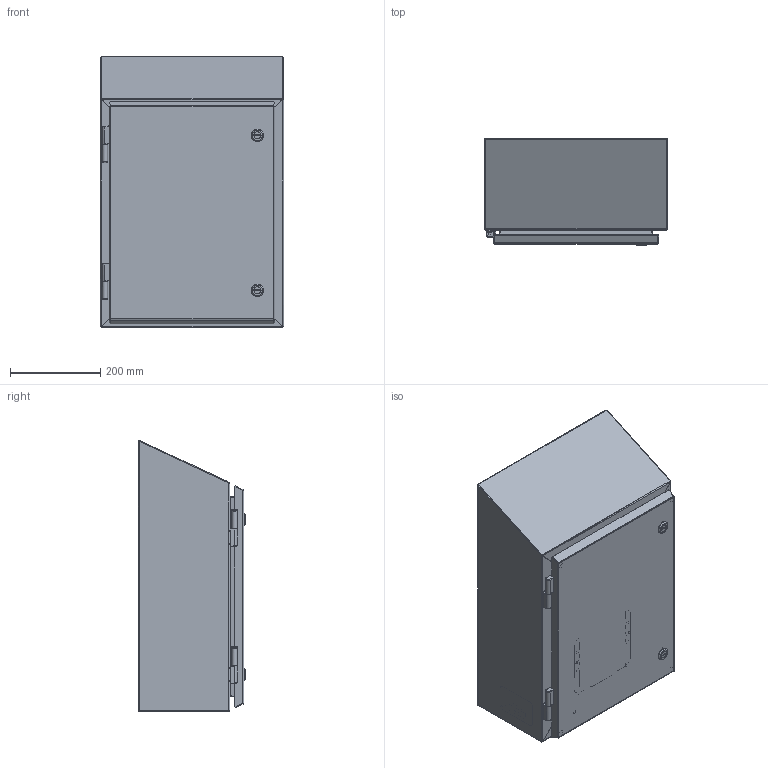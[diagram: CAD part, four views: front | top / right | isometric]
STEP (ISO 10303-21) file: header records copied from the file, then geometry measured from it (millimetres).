
FILE_DESCRIPTION(/* description */ ('Unknown'),/* implementation_level */ '2;1');
FILE_NAME(/* name */ 'HWST20168SS',/* time_stamp */ '2020-10-07T11:25:42-04:00',/* author */ ('Unknown'),/* organization */ ('Unknown'),/* preprocessor_version */ 'ST-DEVELOPER v16.7',/* originating_system */ 'Solid Edge',/* authorisation */ 'Unknown');
FILE_SCHEMA (('AUTOMOTIVE_DESIGN {1 0 10303 214 3 1 1}'));
Products named in the file (32): HWST20168SS; COM70699-3; COM70702-2; STD26089; STD26258; LAB86820; HNG86659; HNG86659-1; HNG86659-2; WAM30017; COM70219_oa_0; SCS86661; BUL10020; COM70705-3; STD26063; LOK10031; LOK10031_NUT; LOK10031_INSERT; LOK10031_SC; LOK10031_CAM; NTS18118; QLB30022; PKT66; KIT95057; NTS16695; SCC19009; WAF25037; WAM30022; NTS16536; NTS16694
Assembly tree (50 placements, depth 3):
  HWST20168SS
    COM70699-3
    COM70702-2
    STD26089  x4
    STD26258
    LAB86820
    HNG86659  x2
      HNG86659-1
      HNG86659-2
    WAM30017  x4
    COM70219_oa_0
    SCS86661  x8
    BUL10020
    COM70705-3
      COM70705-3
      STD26258
      STD26063  x2
    LOK10031  x2
      LOK10031_NUT
      LOK10031_INSERT
      LOK10031_SC
      LOK10031_CAM
      LOK10031
    NTS18118  x2
    QLB30022
    PKT66
    KIT95057
      NTS16695
      SCC19009
      WAF25037
      WAM30022
      NTS16536
      NTS16694
Bounding box: 406.4 x 238 x 601.57 mm (x, y, z)
Volume: 1990134.2 mm3; surface area: 2120576.9 mm2
Topology: 51 solids, 52 shells, 2007 faces, 4756 edges, 3030 vertices
Faces by surface type: plane 1329, cylinder 316, bspline 271, torus 46, cone 43, sphere 2
Full cylindrical faces by diameter (mm): 3.307 x2, 4.166 x2, 4.917 x16, 4.976 x1, 5 x2, 5.105 x1, 5.74 x8, 6 x6, 6.096 x8, 6.1 x4, 6.35 x4, 6.985 x4, 7.805 x1, 7.938 x2, 8.433 x4, 9.144 x2, 9.347 x2, 9.525 x4, 9.83 x4, 10.363 x1, 12.7 x8, 13.335 x2, 15.875 x6, 16.002 x2, 16.51 x4, 19.5 x2, 19.939 x2, 22.225 x2, 27.94 x2, 88.9 x1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
Entity records: 58642 total; most frequent: CARTESIAN_POINT 24707, ORIENTED_EDGE 7342, DIRECTION 5327, EDGE_CURVE 3671, VERTEX_POINT 2406, FACE_BOUND 1899, EDGE_LOOP 1898, LINE 1797
